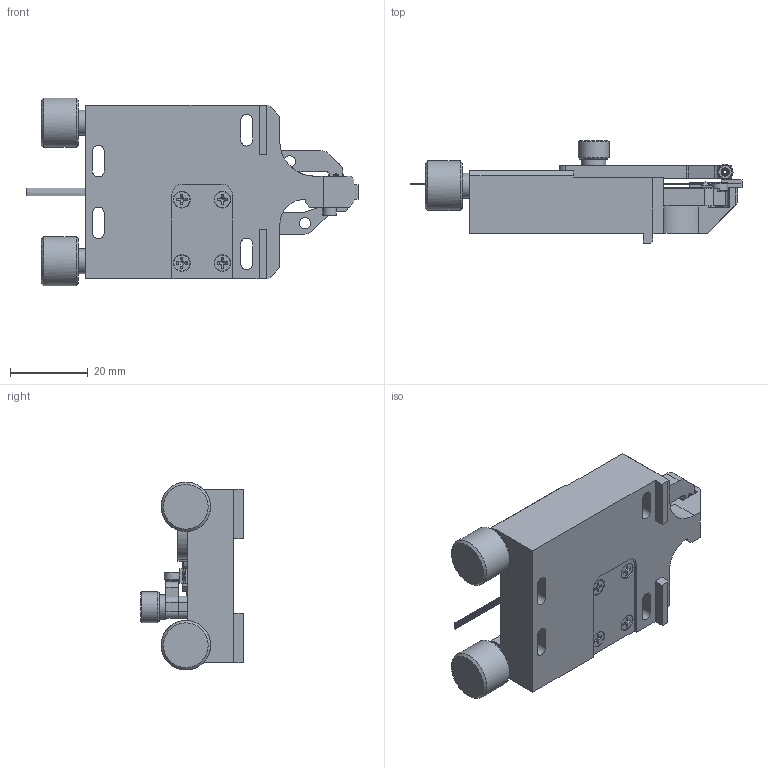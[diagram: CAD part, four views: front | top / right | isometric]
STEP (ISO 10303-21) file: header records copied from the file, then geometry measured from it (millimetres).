
FILE_DESCRIPTION((''),'2;1');
FILE_NAME('C:/Users/JacobDiepeveen/OneDrive - Luminos/Documents/Jacob/CAD/PT Files/PT0231 Universal Fiber Array Holder/solids/PT023189A Web solid for NFAH.STP', '2023-05-09T18:08:29',('JD'), ('Luminos'), 'Kubotek Kosmos Version 5.0.12905.12905', 'KeyCreator Pro', '');
FILE_SCHEMA(('AUTOMOTIVE_DESIGN'));
Length unit declared in the file: inch
Bounding box: 85.23 x 26.39 x 48.26 mm (x, y, z)
Volume: 32349.9 mm3; surface area: 13730.7 mm2
Topology: 5 solids, 5 shells, 600 faces, 1669 edges, 1133 vertices
Faces by surface type: plane 379, cylinder 141, cone 74, bspline 3, sphere 2, torus 1
Full cylindrical faces by diameter (mm): 0.125 x8, 0.249 x16, 1.499 x4, 1.511 x1, 1.778 x2, 2.02 x4, 2.158 x4, 2.845 x4, 2.946 x4, 3.342 x4, 3.454 x2, 3.556 x2, 4 x2, 6.35 x4, 7.938 x1, 12.7 x2
Entity records: 22740 total; most frequent: CARTESIAN_POINT 5053, ORIENTED_EDGE 3368, DIRECTION 2830, GENERAL_PROPERTY 2029, EDGE_CURVE 1684, VERTEX_POINT 1157, AXIS2_PLACEMENT_3D 960, VECTOR 910
